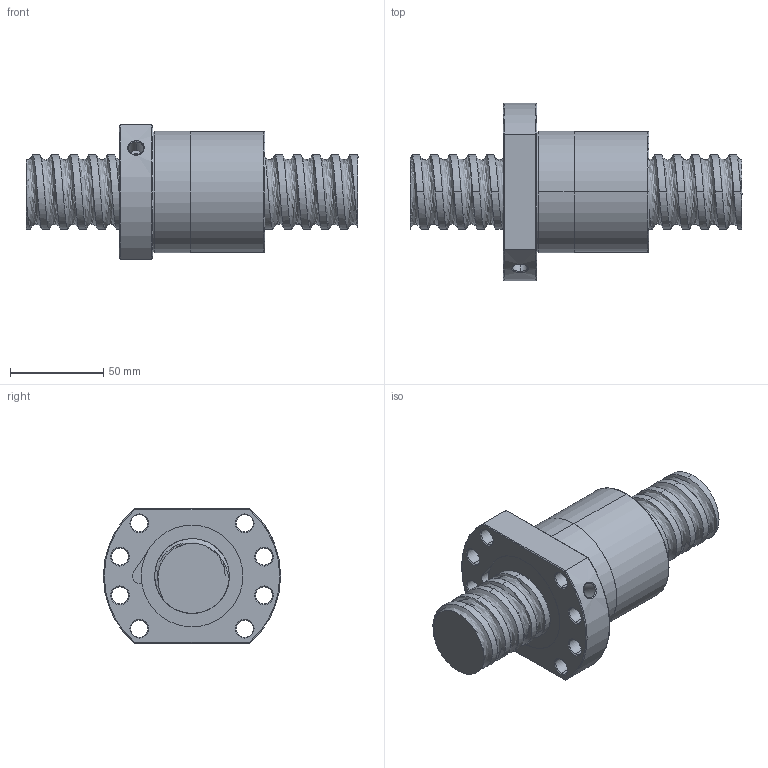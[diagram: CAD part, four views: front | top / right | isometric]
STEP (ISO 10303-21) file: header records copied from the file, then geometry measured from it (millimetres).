
FILE_DESCRIPTION (( 'STEP AP214' ), '1' );
FILE_NAME ('FSDC04010T5F-C.STEP', '2010-06-25T12:20:07', ( 'XPAUTO' ), ( 'XPAUTO' ), 'SwSTEP 2.0', 'SolidWorks 2007', '' );
FILE_SCHEMA (( 'AUTOMOTIVE_DESIGN' ));
Length unit declared in the file: millimetre
Products named in the file (3): FSDC04010T5F-C.sldasm-Part-1_預設; FSDC04010T5F-C; FSDC04010T5F-C.sldasm-Part-2_預設
Assembly tree (2 placements, depth 2):
  FSDC04010T5F-C
    FSDC04010T5F-C.sldasm-Part-2_預設
    FSDC04010T5F-C.sldasm-Part-1_預設
Bounding box: 178 x 95 x 72 mm (x, y, z)
Volume: 398599.9 mm3; surface area: 69729.3 mm2
Topology: 2 solids, 2 shells, 143 faces, 355 edges, 221 vertices
Faces by surface type: cylinder 78, cone 32, plane 22, torus 6, bspline 5
Entity records: 26872 total; most frequent: CARTESIAN_POINT 23474, ORIENTED_EDGE 710, DIRECTION 663, EDGE_CURVE 355, AXIS2_PLACEMENT_3D 268, VERTEX_POINT 221, EDGE_LOOP 168, ADVANCED_FACE 143
